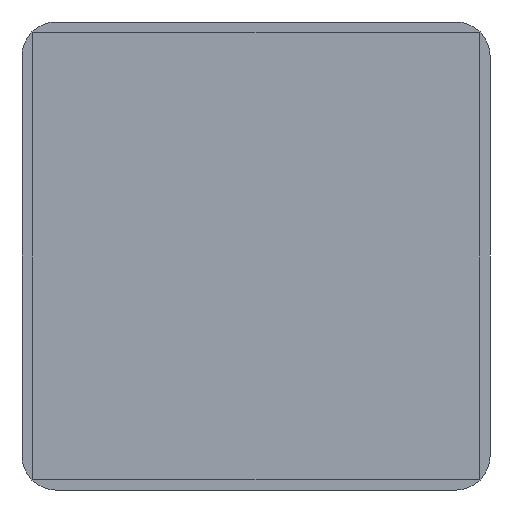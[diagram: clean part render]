
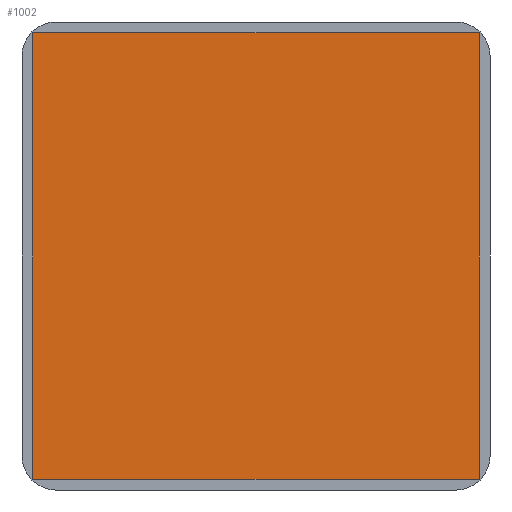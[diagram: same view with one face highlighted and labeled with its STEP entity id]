
A CAD part, front view. The second image highlights one B-rep face of the part: STEP entity #1002.
In plain terms, the highlighted planar face has unit normal (0, -1, 0).
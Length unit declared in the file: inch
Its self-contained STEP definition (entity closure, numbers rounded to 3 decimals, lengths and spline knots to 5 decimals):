
#279 = LINE ( 'NONE', #884, #6529 ) ;
#306 = CARTESIAN_POINT ( 'NONE',  ( 0.64961, -0.005, -0.64961 ) ) ;
#884 = CARTESIAN_POINT ( 'NONE',  ( 0.64961, -0.005, -0.64961 ) ) ;
#1002 = ADVANCED_FACE ( 'NONE', ( #5243 ), #7909, .F. ) ;
#1059 = CARTESIAN_POINT ( 'NONE',  ( -0.64961, -0.005, -0.64961 ) ) ;
#1326 = DIRECTION ( 'NONE',  ( 1., 0., 0. ) ) ;
#1918 = EDGE_CURVE ( 'NONE', #4973, #6823, #2347, .T. ) ;
#2304 = ORIENTED_EDGE ( 'NONE', *, *, #1918, .F. ) ;
#2347 = LINE ( 'NONE', #4776, #7162 ) ;
#2375 = CARTESIAN_POINT ( 'NONE',  ( -0.64961, -0.005, -0.64961 ) ) ;
#2737 = AXIS2_PLACEMENT_3D ( 'NONE', #5358, #3055, #6727 ) ;
#2980 = VECTOR ( 'NONE', #1326, 39.37008 ) ;
#3055 = DIRECTION ( 'NONE',  ( 0., 1., 0. ) ) ;
#3349 = DIRECTION ( 'NONE',  ( 0., 0., -1. ) ) ;
#3399 = CARTESIAN_POINT ( 'NONE',  ( 0.64961, -0.005, 0.64961 ) ) ;
#3955 = CARTESIAN_POINT ( 'NONE',  ( -0.64961, -0.005, 0.64961 ) ) ;
#4489 = LINE ( 'NONE', #6791, #2980 ) ;
#4776 = CARTESIAN_POINT ( 'NONE',  ( -0.64961, -0.005, -0.64961 ) ) ;
#4845 = EDGE_CURVE ( 'NONE', #6665, #7528, #4489, .T. ) ;
#4973 = VERTEX_POINT ( 'NONE', #306 ) ;
#5045 = ORIENTED_EDGE ( 'NONE', *, *, #4845, .F. ) ;
#5243 = FACE_OUTER_BOUND ( 'NONE', #7208, .T. ) ;
#5354 = DIRECTION ( 'NONE',  ( 0., 0., 1. ) ) ;
#5358 = CARTESIAN_POINT ( 'NONE',  ( -0.64961, -0.005, 0.64961 ) ) ;
#5414 = EDGE_CURVE ( 'NONE', #7528, #4973, #279, .T. ) ;
#5489 = EDGE_CURVE ( 'NONE', #6823, #6665, #6524, .T. ) ;
#6290 = ORIENTED_EDGE ( 'NONE', *, *, #5414, .F. ) ;
#6524 = LINE ( 'NONE', #2375, #7181 ) ;
#6529 = VECTOR ( 'NONE', #3349, 39.37008 ) ;
#6665 = VERTEX_POINT ( 'NONE', #3955 ) ;
#6727 = DIRECTION ( 'NONE',  ( 0., 0., 1. ) ) ;
#6791 = CARTESIAN_POINT ( 'NONE',  ( -0.64961, -0.005, 0.64961 ) ) ;
#6823 = VERTEX_POINT ( 'NONE', #1059 ) ;
#7162 = VECTOR ( 'NONE', #7876, 39.37008 ) ;
#7181 = VECTOR ( 'NONE', #5354, 39.37008 ) ;
#7208 = EDGE_LOOP ( 'NONE', ( #7893, #2304, #6290, #5045 ) ) ;
#7528 = VERTEX_POINT ( 'NONE', #3399 ) ;
#7876 = DIRECTION ( 'NONE',  ( -1., 0., 0. ) ) ;
#7893 = ORIENTED_EDGE ( 'NONE', *, *, #5489, .F. ) ;
#7909 = PLANE ( 'NONE',  #2737 ) ;
